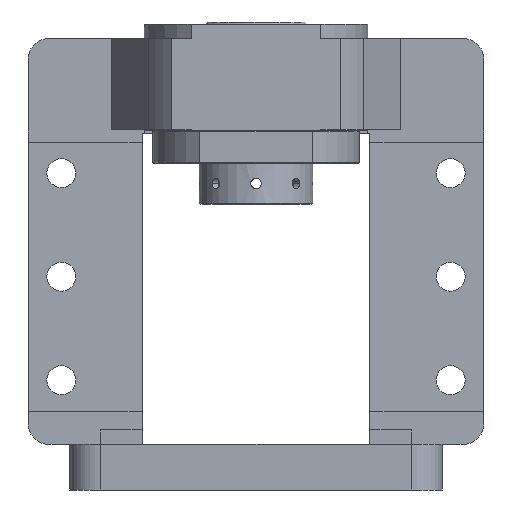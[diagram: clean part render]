
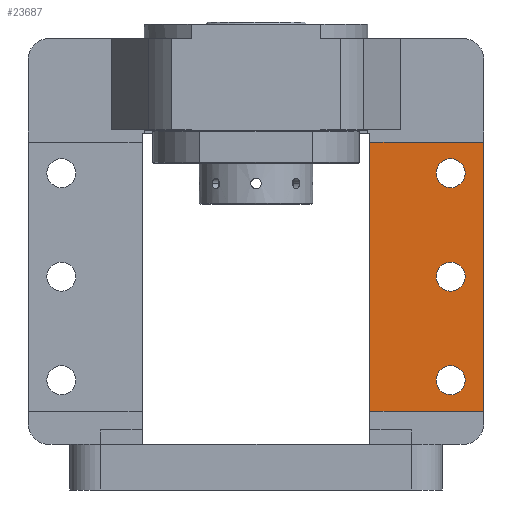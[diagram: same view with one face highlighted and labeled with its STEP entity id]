
A CAD part, front view. The second image highlights one B-rep face of the part: STEP entity #23687.
In plain terms, the highlighted planar face has unit normal (0, -1, 0).
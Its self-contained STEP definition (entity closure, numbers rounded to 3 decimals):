
#119 = ORIENTED_EDGE ( 'NONE', *, *, #10226, .T. ) ;
#297 = CIRCLE ( 'NONE', #19022, 7. ) ;
#746 = CARTESIAN_POINT ( 'NONE',  ( 94., 0., 46. ) ) ;
#845 = DIRECTION ( 'NONE',  ( 0., -1., 0. ) ) ;
#1073 = EDGE_CURVE ( 'NONE', #19295, #2972, #26270, .T. ) ;
#1221 = FACE_BOUND ( 'NONE', #4012, .T. ) ;
#1398 = DIRECTION ( 'NONE',  ( 0., 0., -1. ) ) ;
#1860 = AXIS2_PLACEMENT_3D ( 'NONE', #21274, #845, #15185 ) ;
#2972 = VERTEX_POINT ( 'NONE', #10997 ) ;
#3369 = DIRECTION ( 'NONE',  ( 0., -1., 0. ) ) ;
#3440 = FACE_BOUND ( 'NONE', #13562, .T. ) ;
#3745 = DIRECTION ( 'NONE',  ( 0., -1., 0. ) ) ;
#4012 = EDGE_LOOP ( 'NONE', ( #4717, #18744 ) ) ;
#4465 = LINE ( 'NONE', #7940, #26303 ) ;
#4622 = ORIENTED_EDGE ( 'NONE', *, *, #14771, .F. ) ;
#4717 = ORIENTED_EDGE ( 'NONE', *, *, #18671, .F. ) ;
#4769 = LINE ( 'NONE', #20091, #25301 ) ;
#5532 = ORIENTED_EDGE ( 'NONE', *, *, #26419, .F. ) ;
#5613 = DIRECTION ( 'NONE',  ( 0., -1., 0. ) ) ;
#6924 = VERTEX_POINT ( 'NONE', #746 ) ;
#7153 = CIRCLE ( 'NONE', #17737, 7. ) ;
#7186 = ORIENTED_EDGE ( 'NONE', *, *, #20672, .F. ) ;
#7413 = EDGE_CURVE ( 'NONE', #23858, #13653, #4769, .T. ) ;
#7565 = DIRECTION ( 'NONE',  ( 0., -1., 0. ) ) ;
#7940 = CARTESIAN_POINT ( 'NONE',  ( 110., 0., 38. ) ) ;
#8886 = FACE_OUTER_BOUND ( 'NONE', #22498, .T. ) ;
#9308 = LINE ( 'NONE', #22687, #19564 ) ;
#9386 = DIRECTION ( 'NONE',  ( 0., 0., -1. ) ) ;
#10226 = EDGE_CURVE ( 'NONE', #15779, #15084, #4465, .T. ) ;
#10364 = CARTESIAN_POINT ( 'NONE',  ( 94., 0., 110. ) ) ;
#10983 = VERTEX_POINT ( 'NONE', #19713 ) ;
#10997 = CARTESIAN_POINT ( 'NONE',  ( 94., 0., 160. ) ) ;
#11390 = DIRECTION ( 'NONE',  ( 0., -1., 0. ) ) ;
#11638 = EDGE_LOOP ( 'NONE', ( #4622, #7186 ) ) ;
#12487 = DIRECTION ( 'NONE',  ( 0., 0., -1. ) ) ;
#12627 = ORIENTED_EDGE ( 'NONE', *, *, #22688, .T. ) ;
#12743 = EDGE_CURVE ( 'NONE', #14868, #6924, #7153, .T. ) ;
#12745 = VECTOR ( 'NONE', #9386, 1000. ) ;
#13129 = AXIS2_PLACEMENT_3D ( 'NONE', #17867, #5613, #19929 ) ;
#13439 = CARTESIAN_POINT ( 'NONE',  ( 55., 0., 225. ) ) ;
#13562 = EDGE_LOOP ( 'NONE', ( #14943, #5532 ) ) ;
#13653 = VERTEX_POINT ( 'NONE', #15642 ) ;
#13678 = DIRECTION ( 'NONE',  ( 0., -1., 0. ) ) ;
#13900 = ORIENTED_EDGE ( 'NONE', *, *, #7413, .T. ) ;
#14245 = VERTEX_POINT ( 'NONE', #10364 ) ;
#14771 = EDGE_CURVE ( 'NONE', #10983, #14245, #26060, .T. ) ;
#14868 = VERTEX_POINT ( 'NONE', #24966 ) ;
#14943 = ORIENTED_EDGE ( 'NONE', *, *, #1073, .F. ) ;
#14983 = CARTESIAN_POINT ( 'NONE',  ( 110., 0., 38. ) ) ;
#15084 = VERTEX_POINT ( 'NONE', #14983 ) ;
#15185 = DIRECTION ( 'NONE',  ( 0., 0., -1. ) ) ;
#15642 = CARTESIAN_POINT ( 'NONE',  ( 55., 0., 168. ) ) ;
#15650 = CARTESIAN_POINT ( 'NONE',  ( 94., 0., 153. ) ) ;
#15779 = VERTEX_POINT ( 'NONE', #25050 ) ;
#15974 = DIRECTION ( 'NONE',  ( -1., 0., 0. ) ) ;
#16016 = CARTESIAN_POINT ( 'NONE',  ( 94., 0., 53. ) ) ;
#16535 = EDGE_CURVE ( 'NONE', #23858, #15084, #9308, .T. ) ;
#16937 = AXIS2_PLACEMENT_3D ( 'NONE', #19838, #7565, #21914 ) ;
#17706 = DIRECTION ( 'NONE',  ( 0., 0., -1. ) ) ;
#17737 = AXIS2_PLACEMENT_3D ( 'NONE', #16016, #3745, #18076 ) ;
#17867 = CARTESIAN_POINT ( 'NONE',  ( 94., 0., 103. ) ) ;
#18076 = DIRECTION ( 'NONE',  ( 0., 0., -1. ) ) ;
#18671 = EDGE_CURVE ( 'NONE', #6924, #14868, #20514, .T. ) ;
#18744 = ORIENTED_EDGE ( 'NONE', *, *, #12743, .F. ) ;
#19022 = AXIS2_PLACEMENT_3D ( 'NONE', #15650, #3369, #17706 ) ;
#19191 = PLANE ( 'NONE',  #1860 ) ;
#19295 = VERTEX_POINT ( 'NONE', #24728 ) ;
#19564 = VECTOR ( 'NONE', #12487, 1000. ) ;
#19713 = CARTESIAN_POINT ( 'NONE',  ( 94., 0., 96. ) ) ;
#19798 = FACE_BOUND ( 'NONE', #11638, .T. ) ;
#19806 = AXIS2_PLACEMENT_3D ( 'NONE', #25948, #13678, #1398 ) ;
#19838 = CARTESIAN_POINT ( 'NONE',  ( 94., 0., 153. ) ) ;
#19929 = DIRECTION ( 'NONE',  ( 0., 0., -1. ) ) ;
#20091 = CARTESIAN_POINT ( 'NONE',  ( 110., 0., 168. ) ) ;
#20514 = CIRCLE ( 'NONE', #24792, 7. ) ;
#20672 = EDGE_CURVE ( 'NONE', #14245, #10983, #26582, .T. ) ;
#21274 = CARTESIAN_POINT ( 'NONE',  ( 110., 0., 225. ) ) ;
#21914 = DIRECTION ( 'NONE',  ( 0., 0., -1. ) ) ;
#22174 = ORIENTED_EDGE ( 'NONE', *, *, #16535, .F. ) ;
#22498 = EDGE_LOOP ( 'NONE', ( #22174, #13900, #12627, #119 ) ) ;
#22611 = CARTESIAN_POINT ( 'NONE',  ( 110., 0., 168. ) ) ;
#22687 = CARTESIAN_POINT ( 'NONE',  ( 110., 0., 225. ) ) ;
#22688 = EDGE_CURVE ( 'NONE', #13653, #15779, #23620, .T. ) ;
#23620 = LINE ( 'NONE', #13439, #12745 ) ;
#23658 = CARTESIAN_POINT ( 'NONE',  ( 94., 0., 53. ) ) ;
#23687 = ADVANCED_FACE ( 'NONE', ( #3440, #1221, #19798, #8886 ), #19191, .T. ) ;
#23858 = VERTEX_POINT ( 'NONE', #22611 ) ;
#24349 = DIRECTION ( 'NONE',  ( 1., 0., 0. ) ) ;
#24728 = CARTESIAN_POINT ( 'NONE',  ( 94., 0., 146. ) ) ;
#24792 = AXIS2_PLACEMENT_3D ( 'NONE', #23658, #11390, #25746 ) ;
#24966 = CARTESIAN_POINT ( 'NONE',  ( 94., 0., 60. ) ) ;
#25050 = CARTESIAN_POINT ( 'NONE',  ( 55., 0., 38. ) ) ;
#25301 = VECTOR ( 'NONE', #15974, 1000. ) ;
#25746 = DIRECTION ( 'NONE',  ( 0., 0., -1. ) ) ;
#25948 = CARTESIAN_POINT ( 'NONE',  ( 94., 0., 103. ) ) ;
#26060 = CIRCLE ( 'NONE', #19806, 7. ) ;
#26270 = CIRCLE ( 'NONE', #16937, 7. ) ;
#26303 = VECTOR ( 'NONE', #24349, 1000. ) ;
#26419 = EDGE_CURVE ( 'NONE', #2972, #19295, #297, .T. ) ;
#26582 = CIRCLE ( 'NONE', #13129, 7. ) ;
